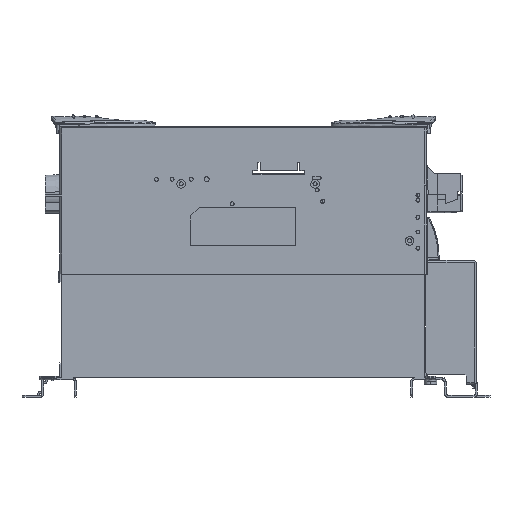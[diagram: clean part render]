
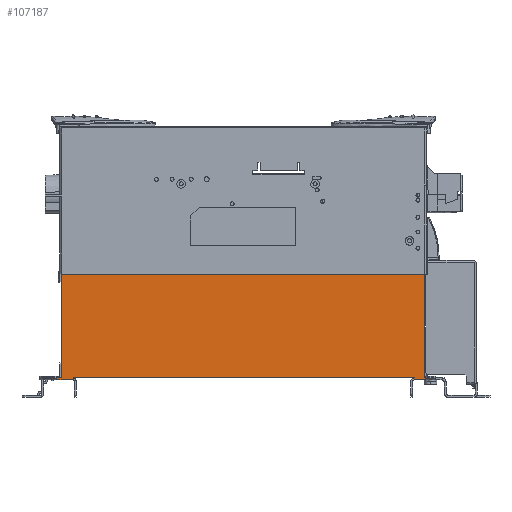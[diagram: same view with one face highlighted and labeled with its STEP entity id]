
A CAD part, left-side view. The second image highlights one B-rep face of the part: STEP entity #107187.
In plain terms, the highlighted planar face has unit normal (-1, 0, 0).
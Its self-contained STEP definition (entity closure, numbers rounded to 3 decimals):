
#18456=DIRECTION('',(0.,1.,0.));
#18457=VECTOR('',#18456,17.2);
#18458=CARTESIAN_POINT('',(0.,177.8,-2.));
#18459=LINE('',#18458,#18457);
#18460=DIRECTION('',(0.,0.,1.));
#18461=VECTOR('',#18460,2.);
#18462=CARTESIAN_POINT('',(0.,195.,-2.));
#18463=LINE('',#18462,#18461);
#18464=DIRECTION('',(0.,-1.,0.));
#18465=VECTOR('',#18464,5.);
#18466=CARTESIAN_POINT('',(0.,195.,0.));
#18467=LINE('',#18466,#18465);
#18468=DIRECTION('',(0.,0.,1.));
#18469=VECTOR('',#18468,108.5);
#18470=CARTESIAN_POINT('',(0.,190.,0.));
#18471=LINE('',#18470,#18469);
#18472=DIRECTION('',(0.,-1.,0.));
#18473=VECTOR('',#18472,380.);
#18474=CARTESIAN_POINT('',(0.,190.,108.5));
#18475=LINE('',#18474,#18473);
#18476=DIRECTION('',(0.,0.,-1.));
#18477=VECTOR('',#18476,108.5);
#18478=CARTESIAN_POINT('',(0.,-190.,108.5));
#18479=LINE('',#18478,#18477);
#18480=DIRECTION('',(0.,-1.,0.));
#18481=VECTOR('',#18480,0.75);
#18482=CARTESIAN_POINT('',(0.,-190.,0.));
#18483=LINE('',#18482,#18481);
#18484=DIRECTION('',(0.,0.,-1.));
#18485=VECTOR('',#18484,2.);
#18486=CARTESIAN_POINT('',(0.,-190.75,0.));
#18487=LINE('',#18486,#18485);
#18488=DIRECTION('',(0.,1.,0.));
#18489=VECTOR('',#18488,11.75);
#18490=CARTESIAN_POINT('',(0.,-190.75,-2.));
#18491=LINE('',#18490,#18489);
#18492=DIRECTION('',(0.,0.,1.));
#18493=VECTOR('',#18492,2.);
#18494=CARTESIAN_POINT('',(0.,-179.,-2.));
#18495=LINE('',#18494,#18493);
#18500=DIRECTION('',(0.,-1.,0.));
#18501=VECTOR('',#18500,356.8);
#18502=CARTESIAN_POINT('',(0.,177.8,0.));
#18503=LINE('',#18502,#18501);
#18574=DIRECTION('',(0.,0.,1.));
#18575=VECTOR('',#18574,2.);
#18576=CARTESIAN_POINT('',(0.,177.8,-2.));
#18577=LINE('',#18576,#18575);
#75802=CARTESIAN_POINT('',(0.,-179.,-2.));
#75803=VERTEX_POINT('',#75802);
#75882=CARTESIAN_POINT('',(0.,-190.75,-2.));
#75883=VERTEX_POINT('',#75882);
#75907=CARTESIAN_POINT('',(0.,-190.75,0.));
#75909=VERTEX_POINT('',#75907);
#80029=CARTESIAN_POINT('',(0.,177.8,-2.));
#80030=CARTESIAN_POINT('',(0.,195.,-2.));
#80031=VERTEX_POINT('',#80029);
#80032=VERTEX_POINT('',#80030);
#80261=CARTESIAN_POINT('',(0.,195.,0.));
#80262=VERTEX_POINT('',#80261);
#81251=CARTESIAN_POINT('',(0.,190.,108.5));
#81253=VERTEX_POINT('',#81251);
#81259=CARTESIAN_POINT('',(0.,-190.,108.5));
#81261=VERTEX_POINT('',#81259);
#82211=CARTESIAN_POINT('',(0.,-190.,0.));
#82213=VERTEX_POINT('',#82211);
#82215=CARTESIAN_POINT('',(0.,-179.,0.));
#82217=VERTEX_POINT('',#82215);
#82335=CARTESIAN_POINT('',(0.,190.,0.));
#82337=VERTEX_POINT('',#82335);
#82340=CARTESIAN_POINT('',(0.,177.8,0.));
#82342=VERTEX_POINT('',#82340);
#107161=CARTESIAN_POINT('',(0.,0.,54.25));
#107162=DIRECTION('',(1.,0.,0.));
#107163=DIRECTION('',(0.,0.,1.));
#107164=AXIS2_PLACEMENT_3D('',#107161,#107162,#107163);
#107165=PLANE('',#107164);
#107167=ORIENTED_EDGE('',*,*,#107166,.F.);
#107169=ORIENTED_EDGE('',*,*,#107168,.F.);
#107170=ORIENTED_EDGE('',*,*,#104295,.T.);
#107171=ORIENTED_EDGE('',*,*,#107154,.T.);
#107172=ORIENTED_EDGE('',*,*,#104060,.T.);
#107173=ORIENTED_EDGE('',*,*,#96875,.T.);
#107175=ORIENTED_EDGE('',*,*,#107174,.T.);
#107176=ORIENTED_EDGE('',*,*,#97470,.T.);
#107178=ORIENTED_EDGE('',*,*,#107177,.T.);
#107180=ORIENTED_EDGE('',*,*,#107179,.T.);
#107182=ORIENTED_EDGE('',*,*,#107181,.T.);
#107184=ORIENTED_EDGE('',*,*,#107183,.T.);
#107185=EDGE_LOOP('',(#107167,#107169,#107170,#107171,#107172,#107173,#107175,
#107176,#107178,#107180,#107182,#107184));
#107186=FACE_OUTER_BOUND('',#107185,.F.);
#96875=EDGE_CURVE('',#82337,#81253,#18471,.T.);
#97470=EDGE_CURVE('',#81261,#82213,#18479,.T.);
#104060=EDGE_CURVE('',#80262,#82337,#18467,.T.);
#104295=EDGE_CURVE('',#80031,#80032,#18459,.T.);
#107154=EDGE_CURVE('',#80032,#80262,#18463,.T.);
#107166=EDGE_CURVE('',#82342,#82217,#18503,.T.);
#107168=EDGE_CURVE('',#80031,#82342,#18577,.T.);
#107174=EDGE_CURVE('',#81253,#81261,#18475,.T.);
#107177=EDGE_CURVE('',#82213,#75909,#18483,.T.);
#107179=EDGE_CURVE('',#75909,#75883,#18487,.T.);
#107181=EDGE_CURVE('',#75883,#75803,#18491,.T.);
#107183=EDGE_CURVE('',#75803,#82217,#18495,.T.);
#107187=ADVANCED_FACE('',(#107186),#107165,.F.);
